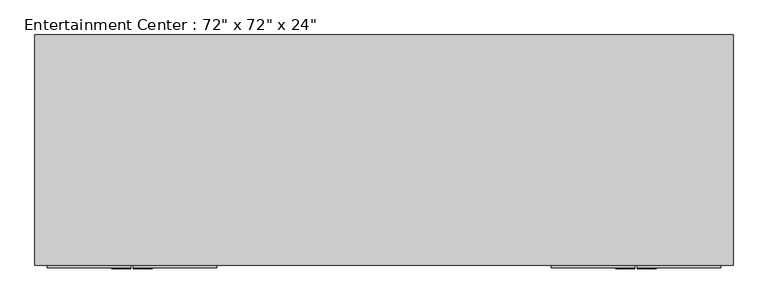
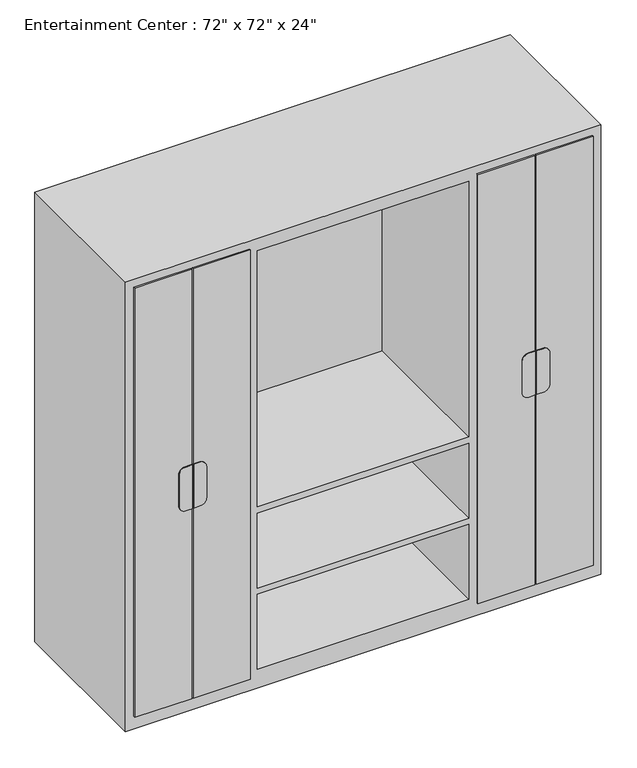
"""IFC4 building model written with IfcOpenShell, lengths in millimetres: furniture geometry."""

from ifc_helpers import new_model, si_unit, point, frame, frame_2d, origin, place, context, project, spatial, polyline, circle_curve, trimmed, segment, composite_curve, outline, extrude, source, transform, mapped, element, save


def furniture_ddc78764(model_context):
    return source(origin(), model_context, "Body", "SweptSolid", [
        extrude(outline(composite_curve([segment(polyline([(1003.3, -632.9986452), (1003.3, -657.225), (825.5, -657.225), (825.5, -632.9986452)]), True, "CONTINUOUS"), segment(trimmed(circle_curve(frame_2d((850.9, -632.9986452)), 25.4), [point((825.5, -632.9986452))], [point((850.9, -607.5986452))], False, "CARTESIAN"), True, "CONTINUOUS"), segment(polyline([(850.9, -607.5986452), (977.9, -607.5986452)]), True, "CONTINUOUS"), segment(trimmed(circle_curve(frame_2d((977.9, -632.9986452)), 25.4), [point((977.9, -607.5986452))], [point((1003.3, -632.9986452))], False, "CARTESIAN"), True, "CONTINUOUS")], self_intersect=False)), frame((0.0, -714.375, 0.0), z_axis=(0.0, 1.0, 0.0), x_axis=(0.0, 0.0, 1.0)), (0.0, 0.0, 1.0), 3.175),
        extrude(outline(composite_curve([segment(trimmed(circle_curve(frame_2d((977.9, -688.18125)), 25.4), [point((1003.3, -688.18125))], [point((977.9, -713.58125))], False, "CARTESIAN"), True, "CONTINUOUS"), segment(polyline([(977.9, -713.58125), (850.9, -713.58125)]), True, "CONTINUOUS"), segment(trimmed(circle_curve(frame_2d((850.9, -688.18125)), 25.4), [point((850.9, -713.58125))], [point((825.5, -688.18125))], False, "CARTESIAN"), True, "CONTINUOUS"), segment(polyline([(825.5, -688.18125), (825.5, -663.575), (1003.3, -663.575), (1003.3, -688.18125)]), True, "CONTINUOUS")], self_intersect=False)), frame((0.0, -714.375, 0.0), z_axis=(0.0, 1.0, 0.0), x_axis=(0.0, 0.0, 1.0)), (0.0, 0.0, 1.0), 3.175),
        extrude(outline(composite_curve([segment(trimmed(circle_curve(frame_2d((977.9, 632.9986452)), 25.4), [point((1003.3, 632.9986452))], [point((977.9, 607.5986452))], False, "CARTESIAN"), True, "CONTINUOUS"), segment(polyline([(977.9, 607.5986452), (850.9, 607.5986452)]), True, "CONTINUOUS"), segment(trimmed(circle_curve(frame_2d((850.9, 632.9986452)), 25.4), [point((850.9, 607.5986452))], [point((825.5, 632.9986452))], False, "CARTESIAN"), True, "CONTINUOUS"), segment(polyline([(825.5, 632.9986452), (825.5, 657.225), (1003.3, 657.225), (1003.3, 632.9986452)]), True, "CONTINUOUS")], self_intersect=False)), frame((0.0, -714.375, 0.0), z_axis=(0.0, 1.0, 0.0), x_axis=(0.0, 0.0, 1.0)), (0.0, 0.0, 1.0), 3.175),
        extrude(outline(composite_curve([segment(polyline([(1003.3, 688.18125), (1003.3, 663.575), (825.5, 663.575), (825.5, 688.18125)]), True, "CONTINUOUS"), segment(trimmed(circle_curve(frame_2d((850.9, 688.18125)), 25.4), [point((825.5, 688.18125))], [point((850.9, 713.58125))], False, "CARTESIAN"), True, "CONTINUOUS"), segment(polyline([(850.9, 713.58125), (977.9, 713.58125)]), True, "CONTINUOUS"), segment(trimmed(circle_curve(frame_2d((977.9, 688.18125)), 25.4), [point((977.9, 713.58125))], [point((1003.3, 688.18125))], False, "CARTESIAN"), True, "CONTINUOUS")], self_intersect=False)), frame((0.0, -714.375, 0.0), z_axis=(0.0, 1.0, 0.0), x_axis=(0.0, 0.0, 1.0)), (0.0, 0.0, 1.0), 3.175),
        extrude(outline(polyline([(-882.65, -704.85), (-663.575, -704.85), (-663.575, -711.2), (-882.65, -711.2), (-882.65, -704.85)])), frame((0.0, 0.0, 50.8), z_axis=(0.0, 0.0, 1.0), x_axis=(1.0, 0.0, 0.0)), (0.0, 0.0, 1.0), 1746.25),
        extrude(outline(polyline([(-657.225, -704.85), (-438.15, -704.85), (-438.15, -711.2), (-657.225, -711.2), (-657.225, -704.85)])), frame((0.0, 0.0, 50.8), z_axis=(0.0, 0.0, 1.0), x_axis=(1.0, 0.0, 0.0)), (0.0, 0.0, 1.0), 1746.25),
        extrude(outline(polyline([(663.575, -704.85), (882.65, -704.85), (882.65, -711.2), (663.575, -711.2), (663.575, -704.85)])), frame((0.0, 0.0, 50.8), z_axis=(0.0, 0.0, 1.0), x_axis=(1.0, 0.0, 0.0)), (0.0, 0.0, 1.0), 1746.25),
        extrude(outline(polyline([(438.15, -704.85), (657.225, -704.85), (657.225, -711.2), (438.15, -711.2), (438.15, -704.85)])), frame((0.0, 0.0, 50.8), z_axis=(0.0, 0.0, 1.0), x_axis=(1.0, 0.0, 0.0)), (0.0, 0.0, 1.0), 1746.25),
        extrude(outline(polyline([(-863.6, -101.6), (863.6, -101.6), (863.6, -127.0), (-863.6, -127.0), (-863.6, -101.6)])), frame((0.0, 0.0, 76.2), z_axis=(0.0, 0.0, 1.0), x_axis=(1.0, 0.0, 0.0)), (0.0, 0.0, 1.0), 1701.8),
        extrude(outline(polyline([(0.0, 914.4), (1828.8, 914.4), (1828.8, -914.4), (0.0, -914.4), (0.0, 914.4)]), holes=[polyline([(1778.0, -457.2), (1384.3, -457.2), (1384.3, -863.6), (1778.0, -863.6), (1778.0, -457.2)]), polyline([(76.2, -457.2), (76.2, -863.6), (444.5, -863.6), (444.5, -457.2), (76.2, -457.2)]), polyline([(1384.3, 863.6), (1384.3, 457.2), (1778.0, 457.2), (1778.0, 863.6), (1384.3, 863.6)]), polyline([(736.6, -406.4), (1778.0, -406.4), (1778.0, 406.4), (736.6, 406.4), (736.6, -406.4)]), polyline([(76.2, 406.4), (76.2, -406.4), (381.0, -406.4), (381.0, 406.4), (76.2, 406.4)]), polyline([(76.2, 863.6), (76.2, 457.2), (444.5, 457.2), (444.5, 863.6), (76.2, 863.6)]), polyline([(469.9, -863.6), (901.7, -863.6), (901.7, -457.2), (469.9, -457.2), (469.9, -863.6)]), polyline([(1358.9, -457.2), (927.1, -457.2), (927.1, -863.6), (1358.9, -863.6), (1358.9, -457.2)]), polyline([(1358.9, 457.2), (1358.9, 863.6), (927.1, 863.6), (927.1, 457.2), (1358.9, 457.2)]), polyline([(901.7, 457.2), (901.7, 863.6), (469.9, 863.6), (469.9, 457.2), (901.7, 457.2)]), polyline([(406.4, 406.4), (406.4, -406.4), (711.2, -406.4), (711.2, 406.4), (406.4, 406.4)])]), frame((0.0, -704.85, 0.0), z_axis=(0.0, 1.0, 0.0), x_axis=(0.0, 0.0, 1.0)), (0.0, 0.0, 1.0), 603.25),
    ])


if __name__ == "__main__":
    model = new_model("IFC4")
    model_context = context("Model", 3, world=origin())
    ifc_project = project(units=[si_unit("LENGTHUNIT", "METRE", prefix="MILLI")], contexts=[model_context])
    site = spatial("IfcSite", under=ifc_project)
    building = spatial("IfcBuilding", under=site)
    placement = place(None, origin())
    furniture_shape = furniture_ddc78764(model_context)
    element("IfcFurniture", 1, ObjectType="Entertainment Center : 72\" x 72\" x 24\"", at=placement, inside=building, context=model_context, shape_type="MappedRepresentation", body=[
        mapped(furniture_shape, transform((0.0, 0.0, 0.0), x_axis=(1.0, 0.0, 0.0), y_axis=(0.0, 1.0, 0.0), z_axis=(0.0, 0.0, 1.0))),
    ])
    save(model, "model.ifc")
